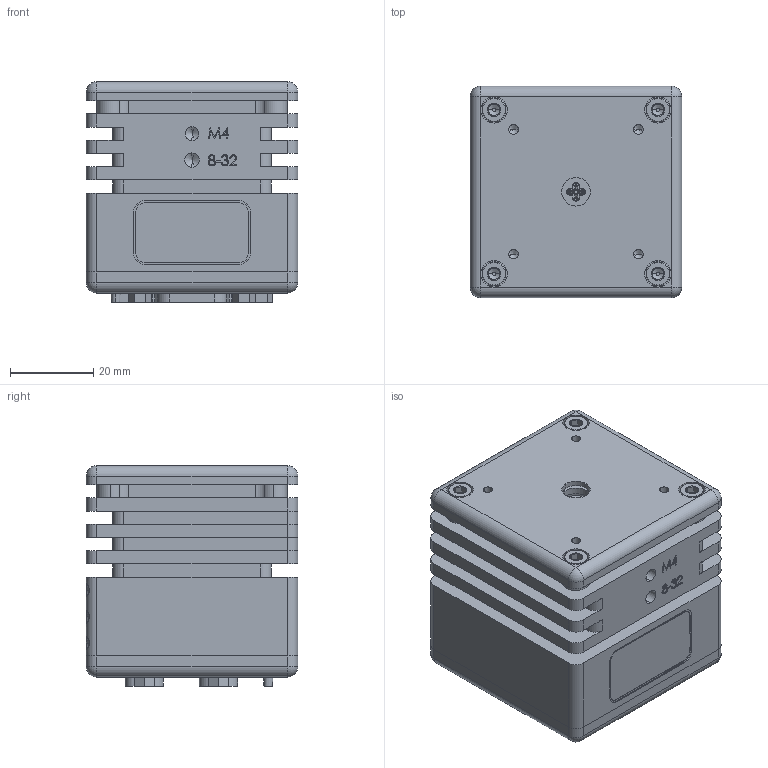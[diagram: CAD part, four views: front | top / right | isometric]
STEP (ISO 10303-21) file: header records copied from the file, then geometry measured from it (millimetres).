
FILE_DESCRIPTION (( 'STEP AP214' ), '1' );
FILE_NAME ('224B LaserMount.STEP', '2023-03-03T17:46:58', ( '' ), ( '' ), 'SwSTEP 2.0', 'SolidWorks 2021', '' );
FILE_SCHEMA (( 'AUTOMOTIVE_DESIGN' ));
Length unit declared in the file: inch
Products named in the file (1): 224B LaserMount
Bounding box: 50.8 x 50.8 x 53.04 mm (x, y, z)
Volume: 109244.9 mm3; surface area: 35830.2 mm2
Topology: 5 solids, 5 shells, 2717 faces, 6914 edges, 4422 vertices
Faces by surface type: plane 1377, bspline 568, cylinder 499, cone 220, torus 27, sphere 26
Entity records: 149422 total; most frequent: CARTESIAN_POINT 52142, ORIENTED_EDGE 13748, DIRECTION 11034, EDGE_CURVE 6874, VERTEX_POINT 4419, LINE 4142, VECTOR 4142, AXIS2_PLACEMENT_3D 3446
